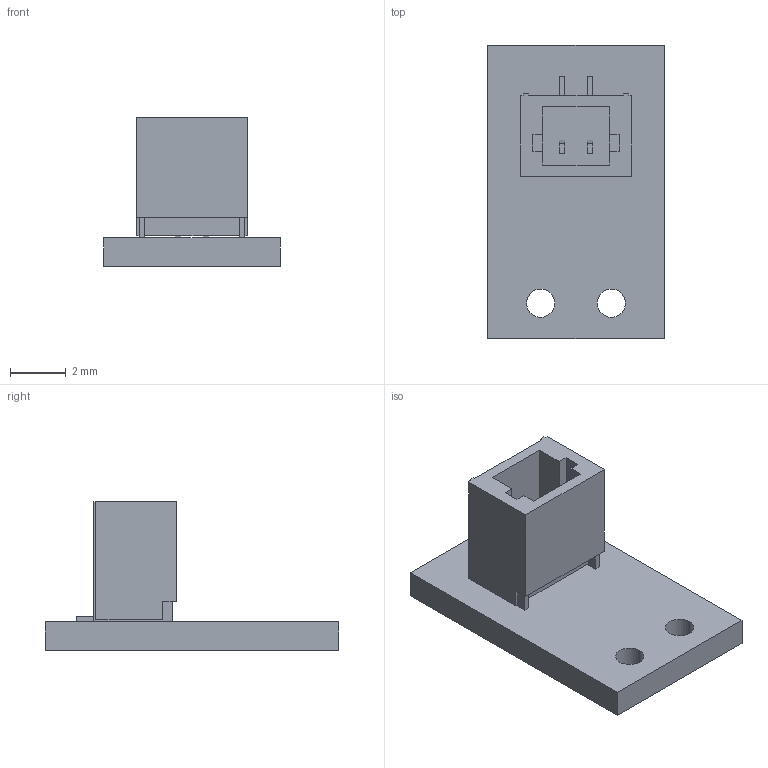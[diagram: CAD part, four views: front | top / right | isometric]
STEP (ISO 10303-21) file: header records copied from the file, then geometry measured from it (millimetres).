
FILE_DESCRIPTION (( 'STEP AP214' ), '1' );
FILE_NAME ('con04a_top.step', '2025-06-12T20:50:21', ( '' ), ( '' ), 'SwSTEP 2.0', 'SolidWorks 2025', '' );
FILE_SCHEMA (( 'AUTOMOTIVE_DESIGN' ));
Length unit declared in the file: millimetre
Products named in the file (1): con04a_top
Bounding box: 6.35 x 10.54 x 5.34 mm (x, y, z)
Volume: 98.8 mm3; surface area: 288.7 mm2
Topology: 1 solids, 1 shells, 448 faces, 1209 edges, 806 vertices
Faces by surface type: plane 268, bspline 176, cylinder 4
Entity records: 25393 total; most frequent: CARTESIAN_POINT 10456, ORIENTED_EDGE 2418, DIRECTION 1411, EDGE_CURVE 1209, LINE 849, VECTOR 849, VERTEX_POINT 806, EDGE_LOOP 501
